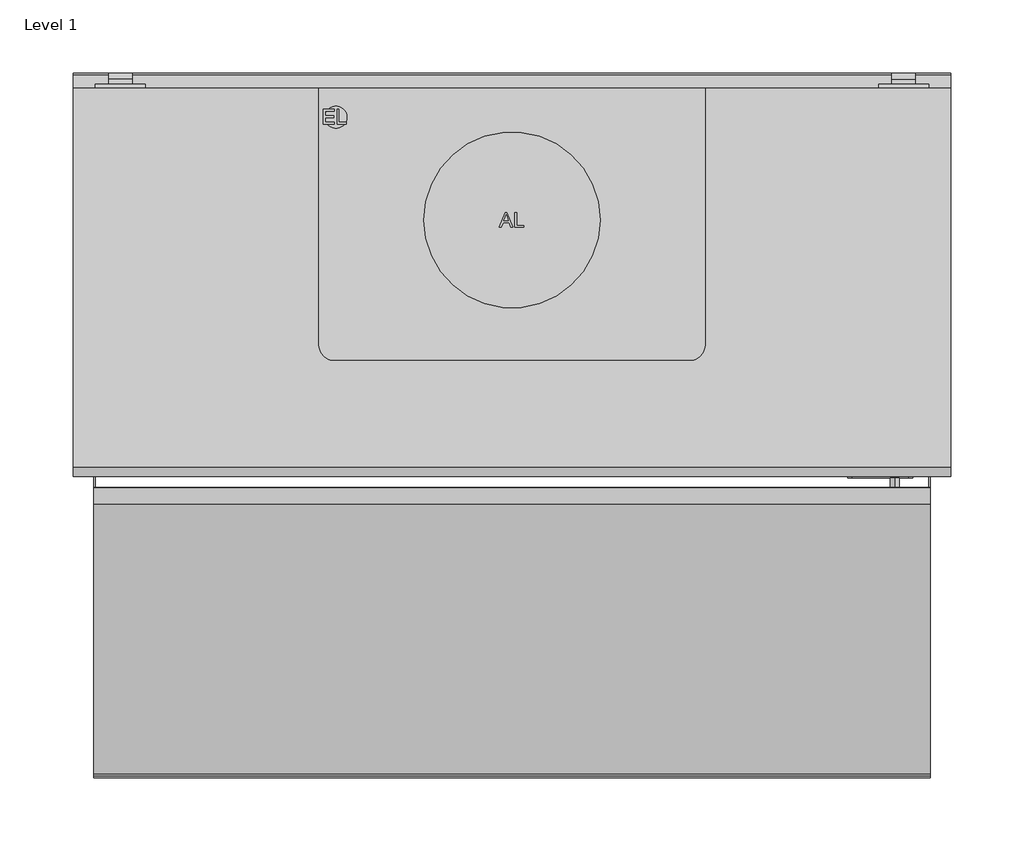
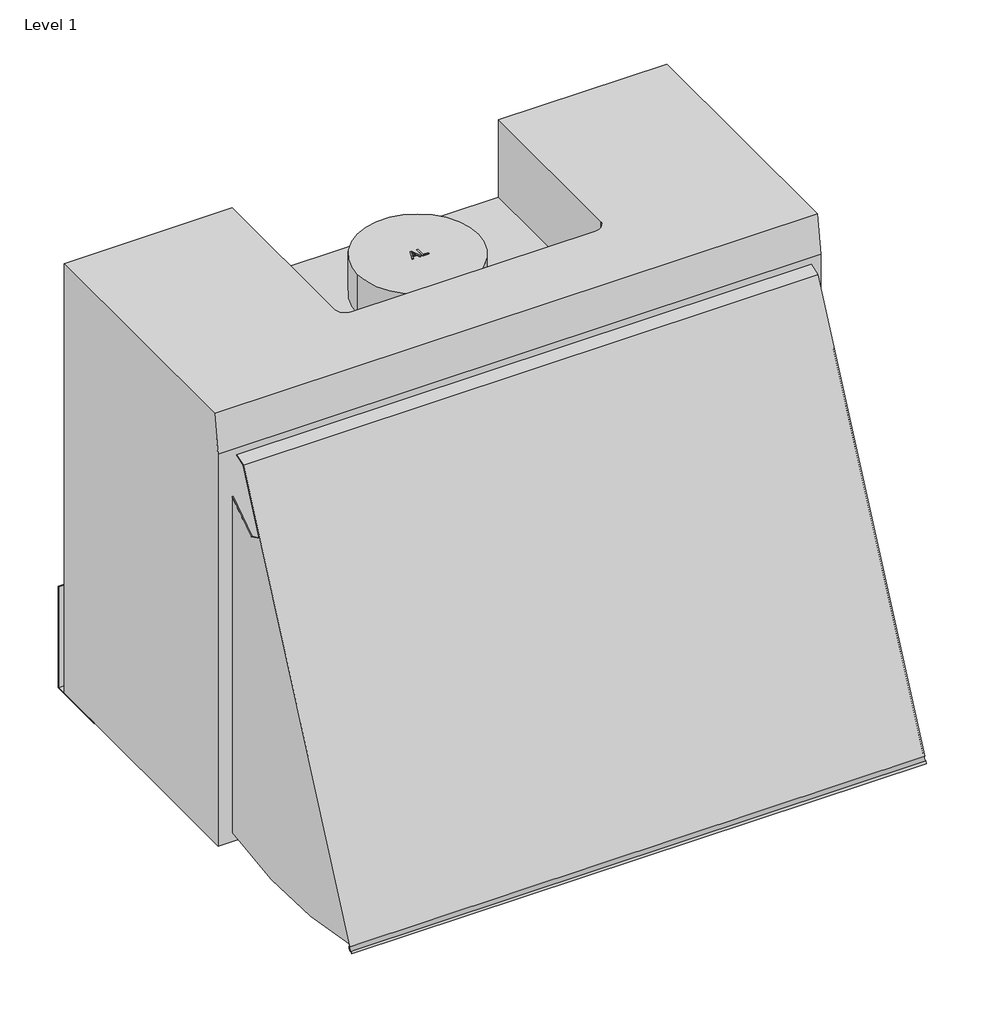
# One storey: 1 proxy.
"""IFC4 building model written with IfcOpenShell, lengths in millimetres."""

from ifc_helpers import new_model, si_unit, origin, place, context, project, spatial, transform, mapped, element, save
from components import specialty_equipment_7dc275c3

model = new_model("IFC4")

# Units and contexts
model_context = context("Model", 3, world=origin())
ifc_project = project(units=[si_unit("LENGTHUNIT", "METRE", prefix="MILLI")], contexts=[model_context])

# Site, building, storey
site = spatial("IfcSite", under=ifc_project)
building = spatial("IfcBuilding", under=site)
storey = spatial("IfcBuildingStorey", under=building, Name="Level 1", Elevation=0.0)

# Proxy
placement = place(None, origin())
specialty_equipment_shape = specialty_equipment_7dc275c3(model_context)
element("IfcBuildingElementProxy", 1, Name="07200040_CDN_DA186_EDST-OPTIK : 28186050_CDN_7200040_DA186_EDST-OPTIK", ObjectType="07200040_CDN_DA186_EDST-OPTIK : 28186050_CDN_7200040_DA186_EDST-OPTIK", at=placement, inside=storey, context=model_context, shape_type="MappedRepresentation", body=[
    mapped(specialty_equipment_shape, transform((0.0, 0.0, 0.0), x_axis=(1.0, 0.0, 0.0), y_axis=(0.0, 1.0, 0.0), z_axis=(0.0, 0.0, 1.0))),
])

save(model, "model.ifc")
